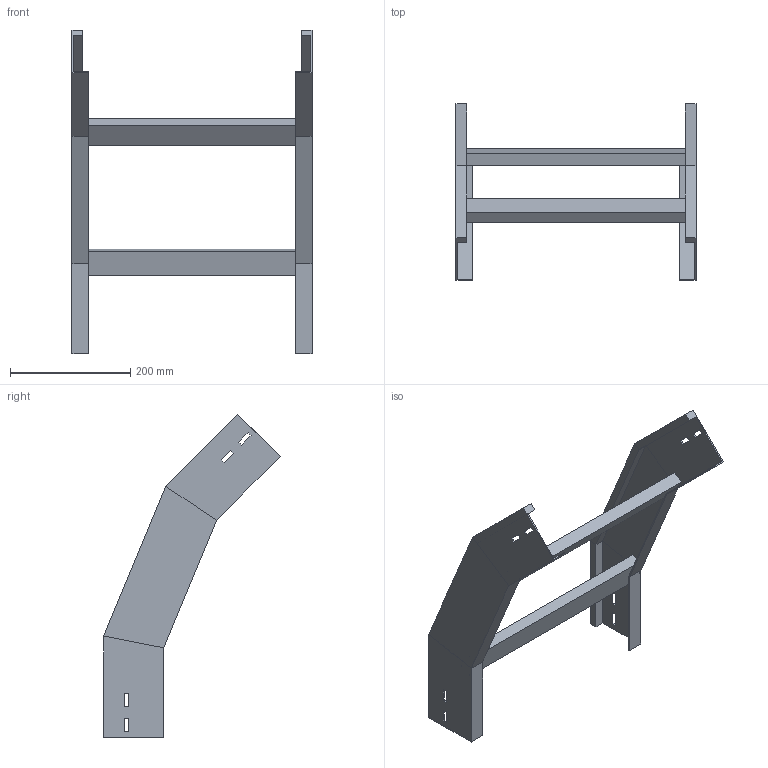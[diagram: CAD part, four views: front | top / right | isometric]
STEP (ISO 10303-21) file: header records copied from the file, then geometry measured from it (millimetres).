
FILE_DESCRIPTION (( 'STEP AP214' ), '1' );
FILE_NAME ('A2_34B3D400.step', '2025-02-21T14:51:35', ( '' ), ( '' ), 'SwSTEP 2.0', 'SolidWorks 2023', '' );
FILE_SCHEMA (( 'AUTOMOTIVE_DESIGN' ));
Length unit declared in the file: millimetre
Products named in the file (3): TRAVERSINO_400; LONGH.DISCESA_45°_H100_R300; A2_34B3D400
Assembly tree (5 placements, depth 2):
  A2_34B3D400
    LONGH.DISCESA_45°_H100_R300  x2
    TRAVERSINO_400  x3
Bounding box: 400 x 294.08 x 539.27 mm (x, y, z)
Volume: 1473048.3 mm3; surface area: 473097.4 mm2
Topology: 5 solids, 5 shells, 102 faces, 244 edges, 152 vertices
Faces by surface type: plane 102
Entity records: 1480 total; most frequent: CARTESIAN_POINT 244, ORIENTED_EDGE 232, DIRECTION 228, LINE 116, EDGE_CURVE 116, VECTOR 116, VERTEX_POINT 72, AXIS2_PLACEMENT_3D 56
